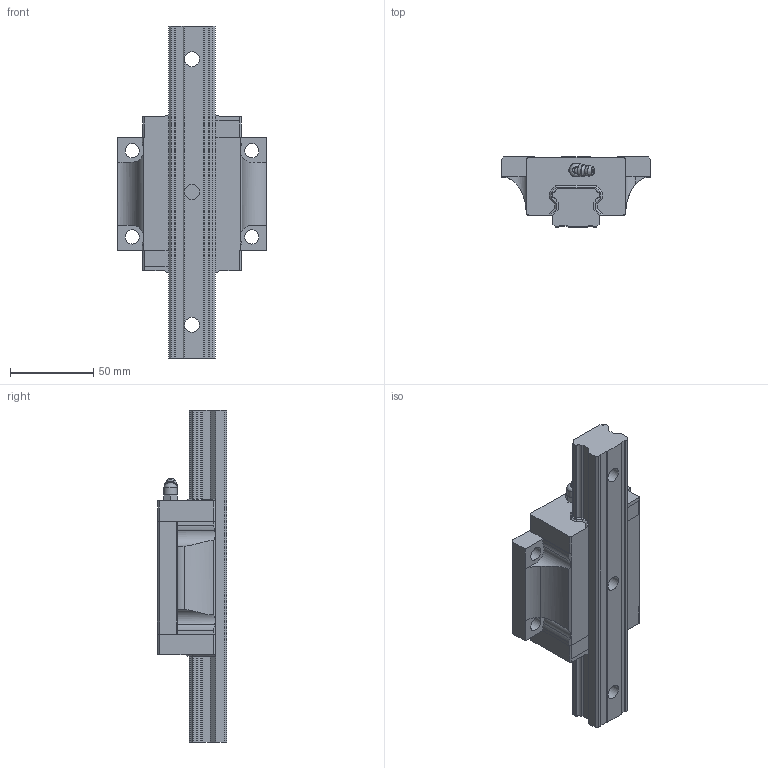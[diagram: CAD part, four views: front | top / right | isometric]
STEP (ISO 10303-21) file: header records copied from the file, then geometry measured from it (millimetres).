
FILE_DESCRIPTION((''),'2;1');
FILE_NAME('D:\製品 (図面)\カタログ用3D\変換ファイル\OZAK_3D-CAD(STEP形式)\Part2.-Linear Guides_ﾘﾆｱｶﾞｲﾄﾞ\07_Eco Guides_ｴｺｶﾞｲﾄﾞ\EGH-F\EGH30F.stp','2010-12-22T11:14:53',('Tsuchiya'),(''),'Autodesk Inventor 10','Autodesk Inventor 10','');
FILE_SCHEMA(('AUTOMOTIVE_DESIGN { 1 0 10303 214 1 1 1 1 }'));
Length unit declared in the file: millimetre
Products named in the file (3): EGH30F; EGH30F1; EGH30F2
Assembly tree (2 placements, depth 2):
  EGH30F
    EGH30F1
    EGH30F2
Bounding box: 90 x 42 x 200 mm (x, y, z)
Volume: 291097.5 mm3; surface area: 54119.5 mm2
Topology: 2 solids, 3 shells, 253 faces, 679 edges, 439 vertices
Faces by surface type: plane 144, cylinder 79, cone 20, bspline 8, torus 1, sphere 1
Full cylindrical faces by diameter (mm): 6 x2, 7.75 x1, 8 x1, 8.6 x4, 9 x3, 14 x3
Entity records: 8118 total; most frequent: CARTESIAN_POINT 1787, ORIENTED_EDGE 1292, DIRECTION 1290, EDGE_CURVE 646, AXIS2_PLACEMENT_3D 430, VECTOR 430, LINE 430, VERTEX_POINT 429
